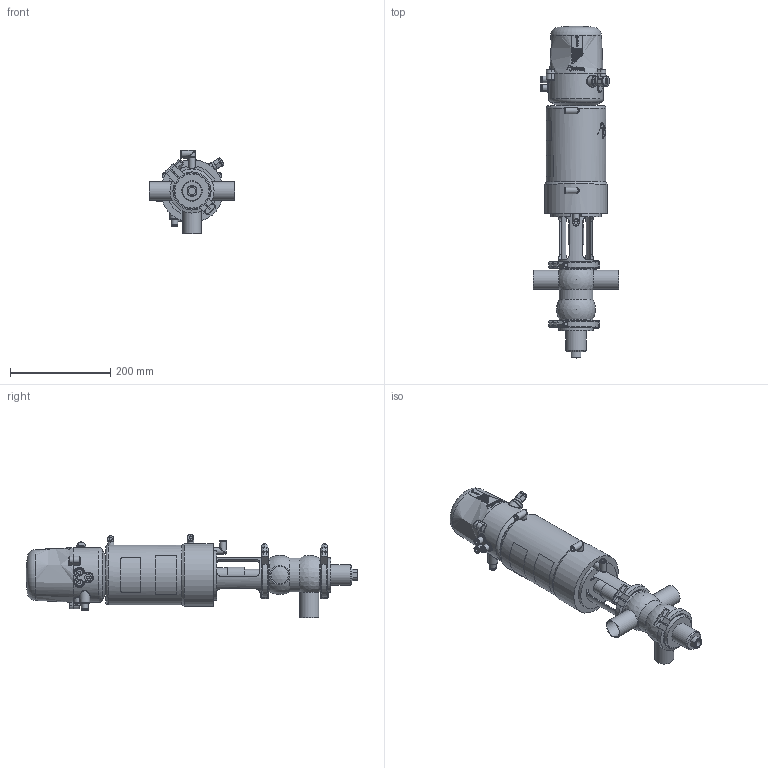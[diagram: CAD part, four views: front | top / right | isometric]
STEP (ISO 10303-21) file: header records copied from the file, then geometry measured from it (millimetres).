
FILE_DESCRIPTION (( 'STEP AP214' ), '1' );
FILE_NAME ('INNOVA P AB-90 W OD 1½ & C-TOP S_10.250.16.0011.STEP', '2024-08-09T12:27:30', ( '' ), ( '' ), 'SwSTEP 2.0', 'SolidWorks 2023', '' );
FILE_SCHEMA (( 'AUTOMOTIVE_DESIGN' ));
Length unit declared in the file: millimetre
Products named in the file (7): 10.250.15.0003_DN 1½"; 10.426.15.0001_C-TOP S - 3 EV; INNOVA P AB-90 W OD 1½ & C-TOP S_10.250.16.0011; 10.240.15.0001_DN 040; 10.250.15.0001_OD 1½"; 10.251.15.0003_OD 1½"; 10.250.15.0002_Type P T1
Assembly tree (7 placements, depth 2):
  INNOVA P AB-90 W OD 1½ & C-TOP S_10.250.16.0011
    10.250.15.0001_OD 1½"
    10.250.15.0002_Type P T1
    10.426.15.0001_C-TOP S - 3 EV
    10.251.15.0003_OD 1½"
    10.240.15.0001_DN 040  x2
    10.250.15.0003_DN 1½"
Bounding box: 170 x 661.7 x 166 mm (x, y, z)
Volume: 4746142.3 mm3; surface area: 365323.9 mm2
Topology: 7 solids, 7 shells, 1208 faces, 2909 edges, 1933 vertices
Faces by surface type: plane 414, cylinder 385, cone 204, bspline 163, torus 33, sphere 9
Full cylindrical faces by diameter (mm): 0.371 x17, 0.512 x16, 0.658 x16, 0.795 x16, 0.94 x15, 1.098 x15, 1.241 x13, 1.382 x13, 1.523 x11, 1.669 x10, 2.201 x1, 4.2 x2, 5 x1, 5.5 x2, 6 x4, 6.15 x3, 8 x5, 10 x1, 10.5 x3, 11 x4, 12.5 x9, 13 x6, 13.5 x2, 14 x1, 17 x3, 20 x2, 22 x2, 23 x1, 28 x1, 31.5 x1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
Entity records: 59127 total; most frequent: CARTESIAN_POINT 27681, ORIENTED_EDGE 4618, DIRECTION 3769, EDGE_CURVE 2309, VERTEX_POINT 1646, EDGE_LOOP 1631, AXIS2_PLACEMENT_3D 1551, FACE_OUTER_BOUND 1377
